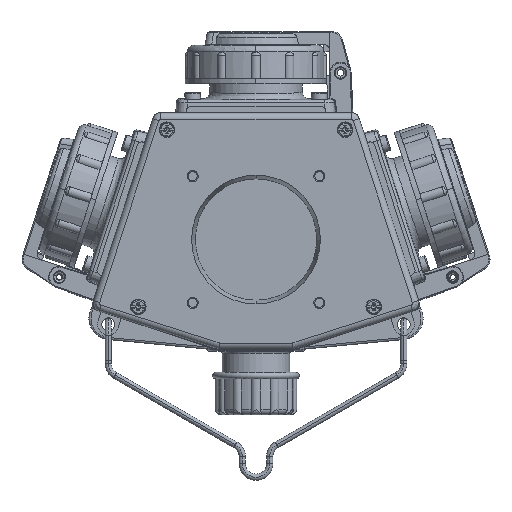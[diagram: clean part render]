
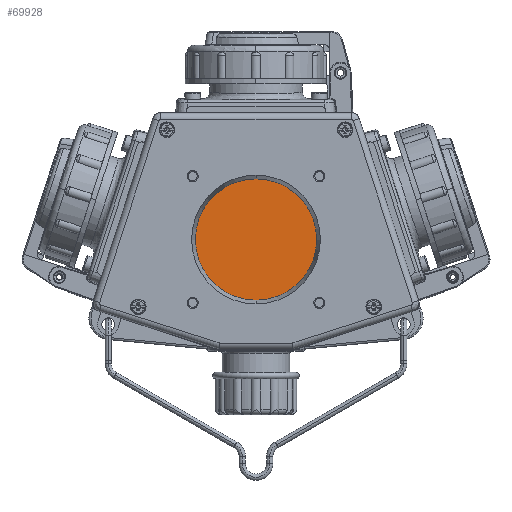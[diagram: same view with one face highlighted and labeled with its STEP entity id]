
A CAD part, front view. The second image highlights one B-rep face of the part: STEP entity #69928.
In plain terms, the highlighted planar face has unit normal (0, -1, 0).
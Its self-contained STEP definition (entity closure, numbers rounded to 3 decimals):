
#11555=CARTESIAN_POINT('',(0.,-41.,6.06));
#11556=DIRECTION('',(0.,1.,0.));
#11557=DIRECTION('',(0.,0.,-1.));
#11558=AXIS2_PLACEMENT_3D('',#11555,#11556,#11557);
#11570=CARTESIAN_POINT('',(0.,-41.,6.06));
#11571=DIRECTION('',(0.,-1.,0.));
#11572=DIRECTION('',(0.,0.,-1.));
#11573=AXIS2_PLACEMENT_3D('',#11570,#11571,#11572);
#54980=CARTESIAN_POINT('',(0.,-41.,-22.69));
#54981=CARTESIAN_POINT('',(0.,-41.,34.81));
#54982=VERTEX_POINT('',#54980);
#54983=VERTEX_POINT('',#54981);
#69919=CARTESIAN_POINT('',(0.,-41.,6.06));
#69920=DIRECTION('',(0.,1.,0.));
#69921=DIRECTION('',(0.,0.,1.));
#69922=AXIS2_PLACEMENT_3D('',#69919,#69920,#69921);
#69923=PLANE('430',#69922);
#69924=ORIENTED_EDGE('3357',*,*,#69901,.F.);
#69925=ORIENTED_EDGE('3356',*,*,#69875,.T.);
#69926=EDGE_LOOP('430',(#69924,#69925));
#69927=FACE_OUTER_BOUND('430',#69926,.F.);
#11559=CIRCLE('3356',#11558,28.75);
#11574=CIRCLE('3357',#11573,28.75);
#69875=EDGE_CURVE('3356',#54982,#54983,#11559,.T.);
#69901=EDGE_CURVE('3357',#54982,#54983,#11574,.T.);
#69928=ADVANCED_FACE('430',(#69927),#69923,.F.);
